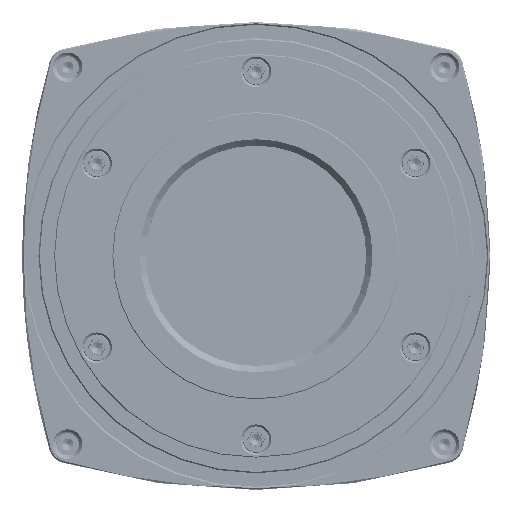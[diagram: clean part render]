
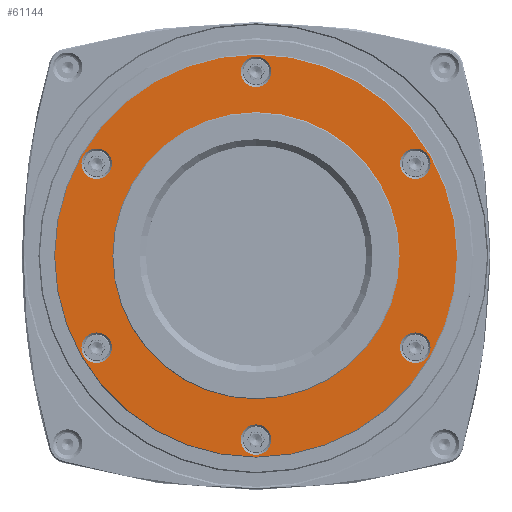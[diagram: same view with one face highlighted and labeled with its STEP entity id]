
A CAD part, top view. The second image highlights one B-rep face of the part: STEP entity #61144.
In plain terms, the highlighted planar face has unit normal (0, 0, 1).
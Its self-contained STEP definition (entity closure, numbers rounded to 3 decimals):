
#61144=ADVANCED_FACE('',(#76583,#76584,#76585,#76586,#76587,#76588,#76589,
#76590),#67451,.F.);
#67451=PLANE('',#215718);
#76583=FACE_BOUND('',#89550,.T.);
#76584=FACE_BOUND('',#89551,.T.);
#76585=FACE_BOUND('',#89552,.T.);
#76586=FACE_BOUND('',#89553,.T.);
#76587=FACE_BOUND('',#89554,.T.);
#76588=FACE_BOUND('',#89555,.T.);
#76589=FACE_BOUND('',#89556,.T.);
#76590=FACE_BOUND('',#89557,.T.);
#89550=EDGE_LOOP('',(#129040));
#89551=EDGE_LOOP('',(#129041));
#89552=EDGE_LOOP('',(#129042));
#89553=EDGE_LOOP('',(#129043));
#89554=EDGE_LOOP('',(#129044));
#89555=EDGE_LOOP('',(#129045));
#89556=EDGE_LOOP('',(#129046));
#89557=EDGE_LOOP('',(#129047));
#129040=ORIENTED_EDGE('',*,*,#182597,.T.);
#129041=ORIENTED_EDGE('',*,*,#182598,.T.);
#129042=ORIENTED_EDGE('',*,*,#182599,.T.);
#129043=ORIENTED_EDGE('',*,*,#182600,.T.);
#129044=ORIENTED_EDGE('',*,*,#182601,.T.);
#129045=ORIENTED_EDGE('',*,*,#182602,.T.);
#129046=ORIENTED_EDGE('',*,*,#182603,.T.);
#129047=ORIENTED_EDGE('',*,*,#182604,.T.);
#158938=VERTEX_POINT('',#415875);
#158939=VERTEX_POINT('',#415877);
#158940=VERTEX_POINT('',#415879);
#158941=VERTEX_POINT('',#415881);
#158942=VERTEX_POINT('',#415883);
#158943=VERTEX_POINT('',#415885);
#158944=VERTEX_POINT('',#415887);
#158945=VERTEX_POINT('',#415889);
#182597=EDGE_CURVE('',#158938,#158938,#198591,.T.);
#182598=EDGE_CURVE('',#158939,#158939,#198592,.T.);
#182599=EDGE_CURVE('',#158940,#158940,#198593,.T.);
#182600=EDGE_CURVE('',#158941,#158941,#198594,.T.);
#182601=EDGE_CURVE('',#158942,#158942,#198595,.T.);
#182602=EDGE_CURVE('',#158943,#158943,#198596,.T.);
#182603=EDGE_CURVE('',#158944,#158944,#198597,.T.);
#182604=EDGE_CURVE('',#158945,#158945,#198598,.T.);
#198591=CIRCLE('',#215710,1.7);
#198592=CIRCLE('',#215711,1.7);
#198593=CIRCLE('',#215712,1.7);
#198594=CIRCLE('',#215713,1.7);
#198595=CIRCLE('',#215714,1.7);
#198596=CIRCLE('',#215715,22.4);
#198597=CIRCLE('',#215716,1.7);
#198598=CIRCLE('',#215717,16.);
#215710=AXIS2_PLACEMENT_3D('',#415874,#260333,#260334);
#215711=AXIS2_PLACEMENT_3D('',#415876,#260335,#260336);
#215712=AXIS2_PLACEMENT_3D('',#415878,#260337,#260338);
#215713=AXIS2_PLACEMENT_3D('',#415880,#260339,#260340);
#215714=AXIS2_PLACEMENT_3D('',#415882,#260341,#260342);
#215715=AXIS2_PLACEMENT_3D('',#415884,#260343,#260344);
#215716=AXIS2_PLACEMENT_3D('',#415886,#260345,#260346);
#215717=AXIS2_PLACEMENT_3D('',#415888,#260347,#260348);
#215718=AXIS2_PLACEMENT_3D('',#415890,#260349,#260350);
#260333=DIRECTION('',(0.,0.,-1.));
#260334=DIRECTION('',(-1.,0.,0.));
#260335=DIRECTION('',(0.,0.,-1.));
#260336=DIRECTION('',(-1.,0.,0.));
#260337=DIRECTION('',(0.,0.,-1.));
#260338=DIRECTION('',(-1.,0.,0.));
#260339=DIRECTION('',(0.,0.,-1.));
#260340=DIRECTION('',(-1.,0.,0.));
#260341=DIRECTION('',(0.,0.,-1.));
#260342=DIRECTION('',(-1.,0.,0.));
#260343=DIRECTION('',(0.,0.,1.));
#260344=DIRECTION('',(-1.,0.,0.));
#260345=DIRECTION('',(0.,0.,-1.));
#260346=DIRECTION('',(-1.,0.,0.));
#260347=DIRECTION('',(0.,0.,-1.));
#260348=DIRECTION('',(-1.,0.,0.));
#260349=DIRECTION('',(0.,0.,-1.));
#260350=DIRECTION('',(-1.,0.,0.));
#415874=CARTESIAN_POINT('',(0.,20.5,-0.305));
#415875=CARTESIAN_POINT('',(-1.7,20.5,-0.305));
#415876=CARTESIAN_POINT('',(17.754,10.25,-0.305));
#415877=CARTESIAN_POINT('',(16.054,10.25,-0.305));
#415878=CARTESIAN_POINT('',(17.754,-10.25,-0.305));
#415879=CARTESIAN_POINT('',(16.054,-10.25,-0.305));
#415880=CARTESIAN_POINT('',(0.,-20.5,-0.305));
#415881=CARTESIAN_POINT('',(-1.7,-20.5,-0.305));
#415882=CARTESIAN_POINT('',(-17.754,10.25,-0.305));
#415883=CARTESIAN_POINT('',(-19.454,10.25,-0.305));
#415884=CARTESIAN_POINT('',(0.,0.,-0.305));
#415885=CARTESIAN_POINT('',(-22.4,0.,-0.305));
#415886=CARTESIAN_POINT('',(-17.754,-10.25,-0.305));
#415887=CARTESIAN_POINT('',(-19.454,-10.25,-0.305));
#415888=CARTESIAN_POINT('',(0.,0.,-0.305));
#415889=CARTESIAN_POINT('',(-16.,0.,-0.305));
#415890=CARTESIAN_POINT('',(0.,0.,-0.305));
